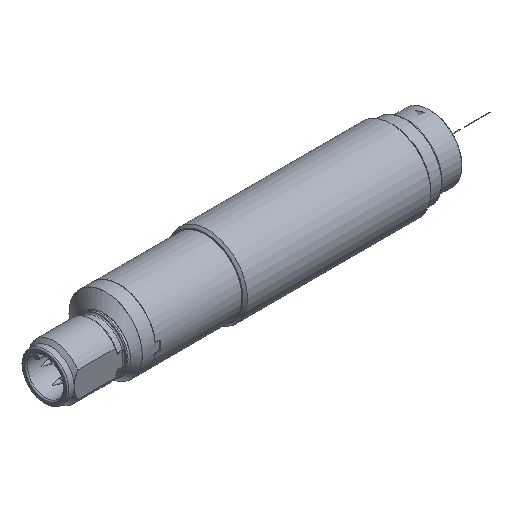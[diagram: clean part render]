
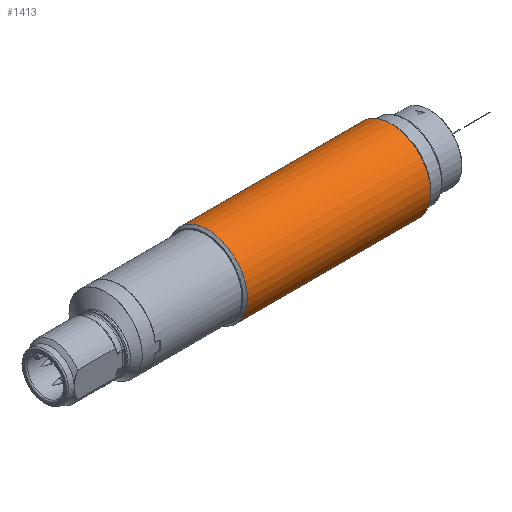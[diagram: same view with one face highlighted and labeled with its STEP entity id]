
A CAD part, isometric view. The second image highlights one B-rep face of the part: STEP entity #1413.
In plain terms, the highlighted cylindrical face has radius 9 mm (diameter 18 mm), a full revolution.
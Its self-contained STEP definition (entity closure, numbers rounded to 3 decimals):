
#498=CYLINDRICAL_SURFACE('',#2922,9.);
#1413=ADVANCED_FACE('',(#1487,#1488),#498,.T.);
#1487=FACE_BOUND('',#1598,.T.);
#1488=FACE_BOUND('',#1599,.T.);
#1598=EDGE_LOOP('',(#1889));
#1599=EDGE_LOOP('',(#1890));
#1889=ORIENTED_EDGE('',*,*,#2592,.T.);
#1890=ORIENTED_EDGE('',*,*,#2593,.T.);
#2240=VERTEX_POINT('',#5036);
#2241=VERTEX_POINT('',#5038);
#2592=EDGE_CURVE('',#2240,#2240,#2773,.T.);
#2593=EDGE_CURVE('',#2241,#2241,#2774,.T.);
#2773=CIRCLE('',#2920,9.);
#2774=CIRCLE('',#2921,9.);
#2920=AXIS2_PLACEMENT_3D('',#5035,#3264,#3265);
#2921=AXIS2_PLACEMENT_3D('',#5037,#3266,#3267);
#2922=AXIS2_PLACEMENT_3D('',#5039,#3268,#3269);
#3264=DIRECTION('',(1.,0.,0.));
#3265=DIRECTION('',(0.,0.,1.));
#3266=DIRECTION('',(-1.,0.,0.));
#3267=DIRECTION('',(0.,0.,1.));
#3268=DIRECTION('',(1.,0.,0.));
#3269=DIRECTION('',(0.,0.,-1.));
#5035=CARTESIAN_POINT('',(-21.544,88.595,-0.2));
#5036=CARTESIAN_POINT('',(-21.544,88.595,8.8));
#5037=CARTESIAN_POINT('',(19.956,88.595,-0.2));
#5038=CARTESIAN_POINT('',(19.956,88.595,8.8));
#5039=CARTESIAN_POINT('',(-22.044,88.595,-0.2));
